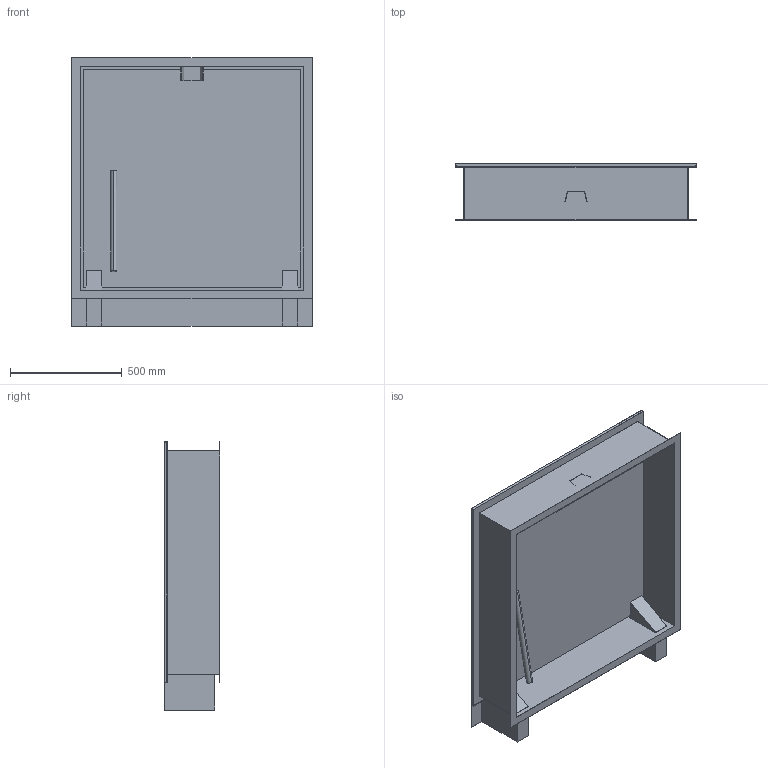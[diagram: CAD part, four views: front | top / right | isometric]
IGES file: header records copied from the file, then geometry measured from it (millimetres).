
Start section:  PTC IGES file: 52001450.igs
Global section: file name: 52001450.igs; native system: Creo Parametric by PTC Inc.; preprocessor: 2021184; author: hrl; organization: Unknown; date: 20221121.070922; units: millimetre
Bounding box: 1078 x 250 x 1200 mm (x, y, z)
Surface area: 5646633.7 mm2 (no closed solid volume)
Topology: 0 solids, 0 shells, 80 faces, 424 edges, 424 vertices
Faces by surface type: bspline 72, revolution 8
